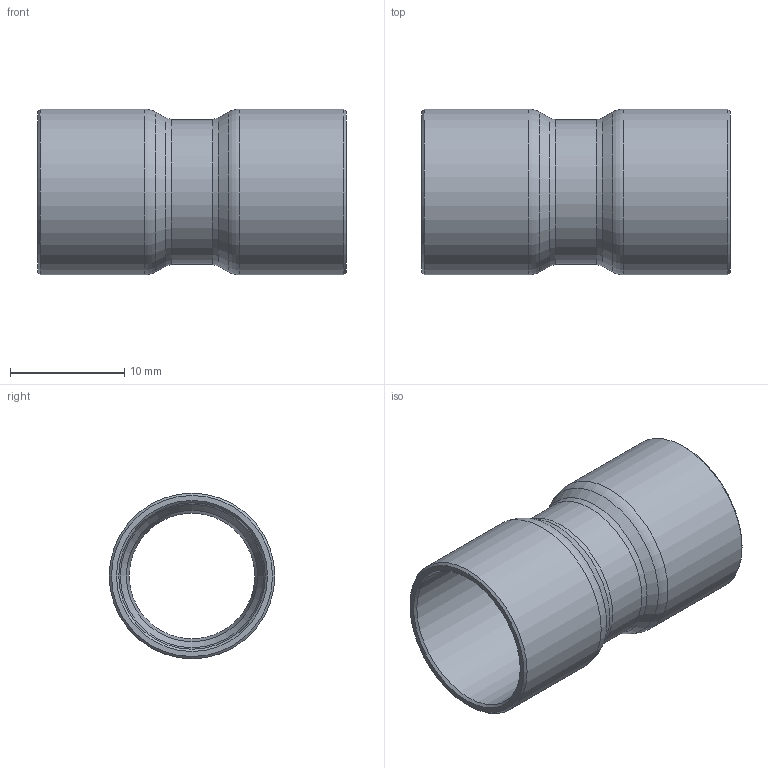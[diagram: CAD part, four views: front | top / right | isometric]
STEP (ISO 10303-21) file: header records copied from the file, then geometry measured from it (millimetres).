
FILE_DESCRIPTION((''),'2;1');
FILE_NAME('G:\SANHA-Ternat\Technik\Management\Bouwmaten + markeringen\z-maattekeningen 3D\29000s\2927012_3d.stp','2017-08-03T14:06:59',('vdvijverd'),(''),'Autodesk Inventor 2009','Autodesk Inventor 2009','');
FILE_SCHEMA(('AUTOMOTIVE_DESIGN { 1 0 10303 214 1 1 1 1 }'));
Length unit declared in the file: millimetre
Products named in the file (1): 2927012_3d
Bounding box: 27 x 14.5 x 14.5 mm (x, y, z)
Volume: 958.5 mm3; surface area: 2334.9 mm2
Topology: 1 solids, 1 shells, 24 faces, 46 edges, 24 vertices
Faces by surface type: cone 8, cylinder 6, torus 4, bspline 4, plane 2
Full cylindrical faces by diameter (mm): 11 x1, 12.7 x1, 12.82 x2, 14.5 x2
Entity records: 674 total; most frequent: CARTESIAN_POINT 249, DIRECTION 90, ORIENTED_EDGE 48, EDGE_LOOP 48, AXIS2_PLACEMENT_3D 45, VERTEX_POINT 24, CIRCLE 24, EDGE_CURVE 24
